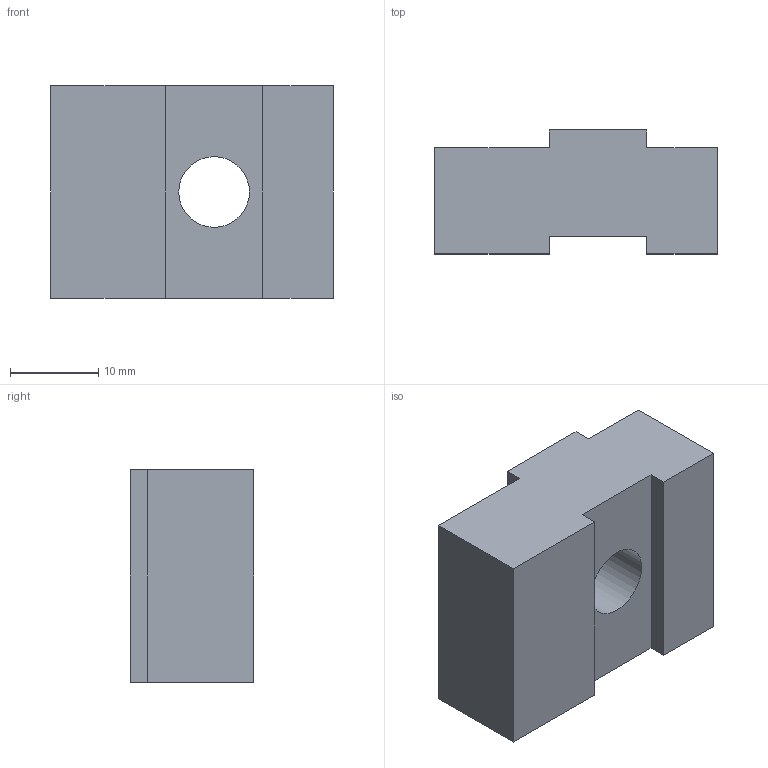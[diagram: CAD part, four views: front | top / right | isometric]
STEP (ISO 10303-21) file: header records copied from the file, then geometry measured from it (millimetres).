
FILE_DESCRIPTION (( 'STEP AP214' ), '1' );
FILE_NAME ('FGRD 12.step', '2017-04-05T07:39:22', ( '' ), ( '' ), 'SwSTEP 2.0', 'SolidWorks 2015', '' );
FILE_SCHEMA (( 'AUTOMOTIVE_DESIGN' ));
Length unit declared in the file: millimetre
Products named in the file (1): FGRD 12
Bounding box: 32 x 14 x 24 mm (x, y, z)
Volume: 8612.8 mm3; surface area: 3273.1 mm2
Topology: 1 solids, 1 shells, 16 faces, 42 edges, 28 vertices
Faces by surface type: plane 14, cylinder 2
Entity records: 528 total; most frequent: CARTESIAN_POINT 87, ORIENTED_EDGE 84, DIRECTION 80, EDGE_CURVE 42, VECTOR 38, LINE 38, VERTEX_POINT 28, AXIS2_PLACEMENT_3D 21
